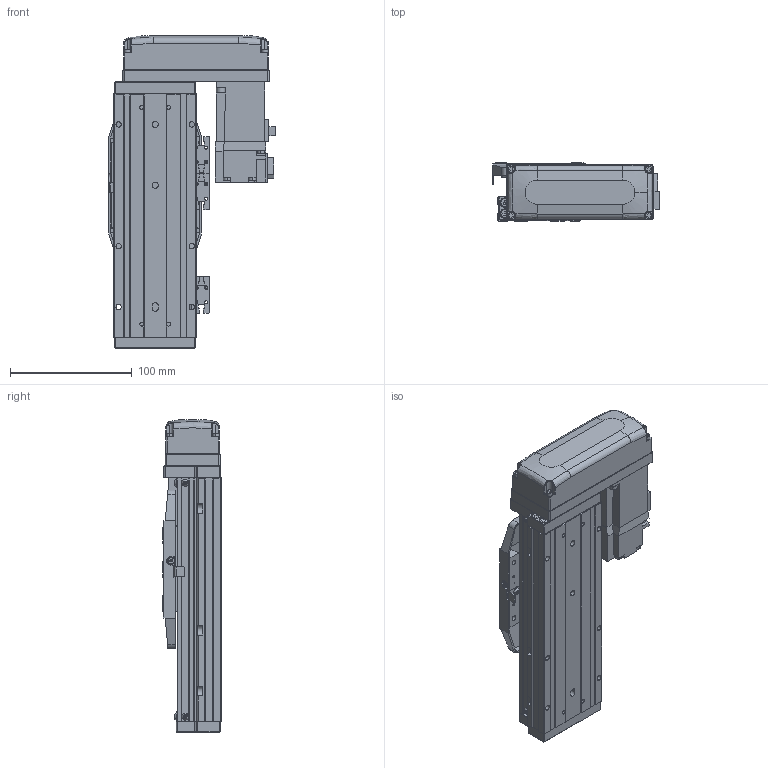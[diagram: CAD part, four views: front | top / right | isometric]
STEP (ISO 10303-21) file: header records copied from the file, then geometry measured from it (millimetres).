
FILE_DESCRIPTION (( 'STEP AP203' ), '1' );
FILE_NAME ('CTHA60-50-BL-M10-C4L.step', '2022-03-19T06:14:24', ( '微软用户' ), ( '微软中国' ), 'SwSTEP 2.0', 'SolidWorks 2020', '' );
FILE_SCHEMA (( 'CONFIG_CONTROL_DESIGN' ));
Length unit declared in the file: millimetre
Products named in the file (18): CTHA60-004; GBT77-2000 M3×3; CTHA60-006-1; CTHA60-005; GBT 70.1-M3℅6; CTHA60-033; GB¨uT 70.2-M3¡Á6_M3¡Á6; GBT 70.3-M3℅6; CTHA60-50-BL-M10-C4L; EE_SX911P_R; CTHA60-016; CTHA60-017; HG-KR13（三菱）; CTHA60-021; CTHA60-002; CTHA60-001_200; GBT 70.1-M4×16; CTHA60-031
Assembly tree (54 placements, depth 2):
  CTHA60-50-BL-M10-C4L
    CTHA60-001_200
    CTHA60-004
    CTHA60-005
    GB¨uT 70.2-M3¡Á6_M3¡Á6  x10
    EE_SX911P_R  x3
    CTHA60-017  x3
    CTHA60-021  x2
    GBT 70.1-M4×16  x10
    GBT77-2000 M3×3  x6
    GBT 70.1-M3℅6  x6
    GBT 70.3-M3℅6  x4
    CTHA60-016  x2
    HG-KR13（三菱）
    CTHA60-002
    CTHA60-031
    CTHA60-006-1
    CTHA60-033
Bounding box: 137.1 x 48 x 257 mm (x, y, z)
Volume: 623962.6 mm3; surface area: 211842.3 mm2
Topology: 56 solids, 56 shells, 2434 faces, 5813 edges, 3577 vertices
Faces by surface type: plane 1401, cylinder 553, cone 332, torus 92, bspline 32, sphere 24
Entity records: 42427 total; most frequent: CARTESIAN_POINT 8250, DIRECTION 6506, ORIENTED_EDGE 6434, EDGE_CURVE 3217, VECTOR 2274, LINE 2274, AXIS2_PLACEMENT_3D 2116, VERTEX_POINT 2036
